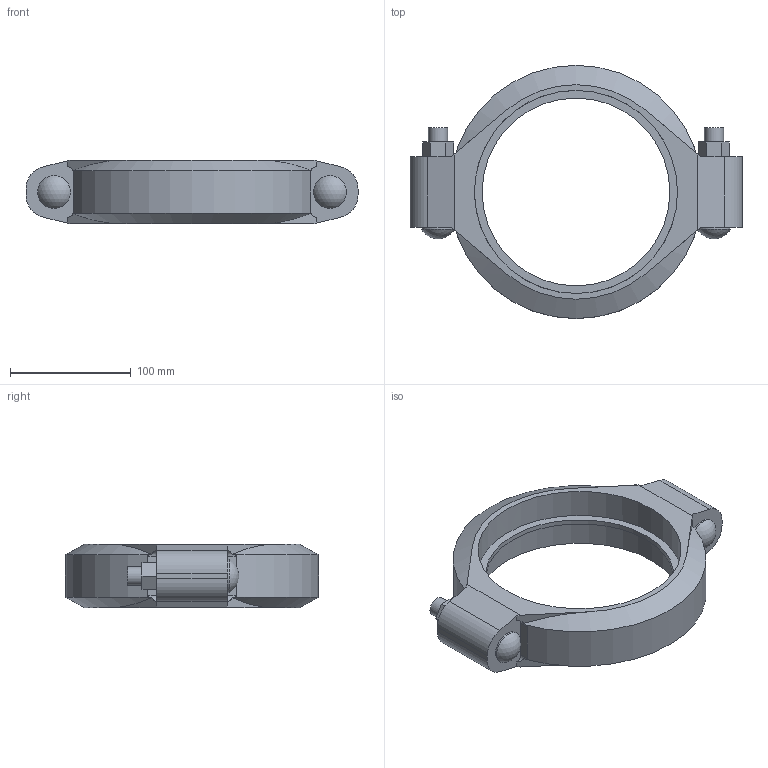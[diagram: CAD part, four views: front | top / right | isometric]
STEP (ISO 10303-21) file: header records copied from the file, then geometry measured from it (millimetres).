
FILE_DESCRIPTION(/* description */ ('VIC COUPLING STYLE 07 RIGID','CAx-IF Rec.Pracs.---Representation and Presentation of Product Manufacturing Information (PMI)---4.0---2014-10-13'),/* implementation_level */ '2;1');
FILE_NAME(/* name */ 'C:\Users\kkamble\Desktop\KIRAN\2022\Updated Couplings\007\Victaulic_IPS_Coupling Rigid_Style 07 (OGS)\Victaulic_IPS_Coupling Rigid_Style 07 (OGS)_6 (150).stp',/* time_stamp */ '2022-03-25T09:56:58+05:00',/* author */ ('jheald'),/* organization */ ('Victaulic'),/* preprocessor_version */ 'ST-DEVELOPER v17.2',/* originating_system */ 'Autodesk Inventor 2019',/* authorisation */ '');
FILE_SCHEMA (('AP242_MANAGED_MODEL_BASED_3D_ENGINEERING_MIM_LF { 1 0 10303 442 1 1 4 }'));
Length unit declared in the file: inch
Products named in the file (1): 07-06.0
Bounding box: 275.08 x 209.8 x 52.58 mm (x, y, z)
Volume: 764463.6 mm3; surface area: 116393.8 mm2
Topology: 1 solids, 3 shells, 91 faces, 251 edges, 170 vertices
Faces by surface type: plane 58, cylinder 27, cone 4, sphere 2
Full cylindrical faces by diameter (mm): 15.875 x4, 27.381 x2, 155.575 x1, 168.275 x2
Entity records: 3236 total; most frequent: CARTESIAN_POINT 642, DIRECTION 511, ORIENTED_EDGE 502, EDGE_CURVE 251, AXIS2_PLACEMENT_3D 179, VERTEX_POINT 170, LINE 153, VECTOR 153
